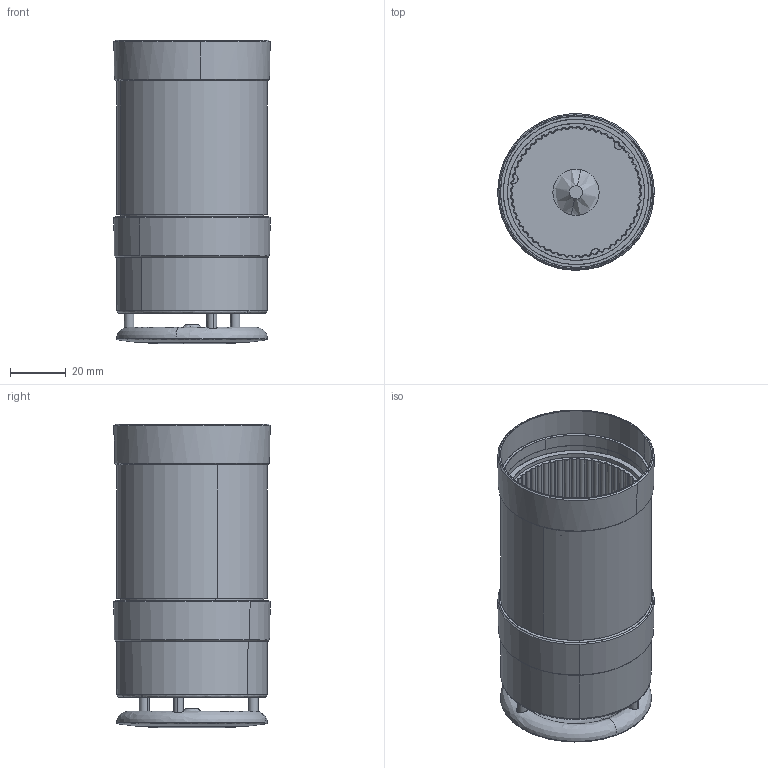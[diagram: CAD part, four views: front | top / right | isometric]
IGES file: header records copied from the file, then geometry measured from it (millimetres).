
Start section: SolidWorks IGES file using analytic representation for surfaces
Global section: file name: C:\PDMWTemp\2825008xxxx - BR50-SM.IGS; native system: SolidWorks 2009; preprocessor: SolidWorks 2009; author: MMark; date: 100511.142959; units: millimetre
Bounding box: 55.95 x 55.95 x 108.5 mm (x, y, z)
Surface area: 37995.7 mm2 (no closed solid volume)
Topology: 0 solids, 0 shells, 213 faces, 2864 edges, 2864 vertices
Faces by surface type: revolution 182, bspline 31
